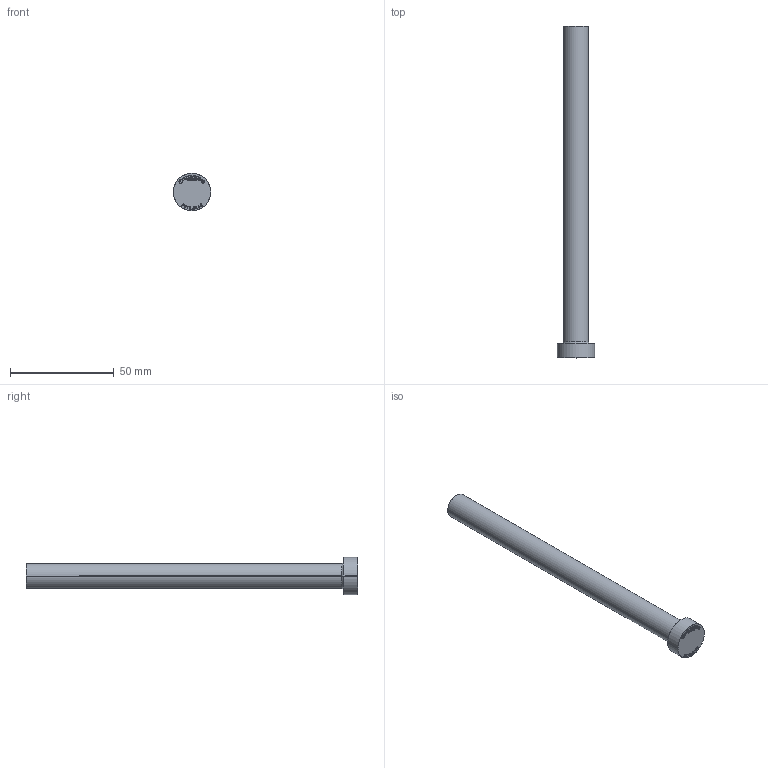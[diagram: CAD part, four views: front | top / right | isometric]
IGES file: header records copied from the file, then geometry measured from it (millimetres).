
Start section: SolidWorks IGES file using analytic representation for surfaces
Global section: file name: C:\Users\User\Downloads\Matripeça 31-08 tar\PB - PINO EXTRATOR TIPO _B_ (CATÁLOGO)\PB12,0\PB12,0160.IGS; native system: SolidWorks 2024; preprocessor: SolidWorks 2024; author: User; date: 260901.151044; units: millimetre
Bounding box: 18 x 160 x 18 mm (x, y, z)
Surface area: 6673.9 mm2 (no closed solid volume)
Topology: 0 solids, 0 shells, 393 faces, 3897 edges, 3897 vertices
Faces by surface type: bspline 379, revolution 14
